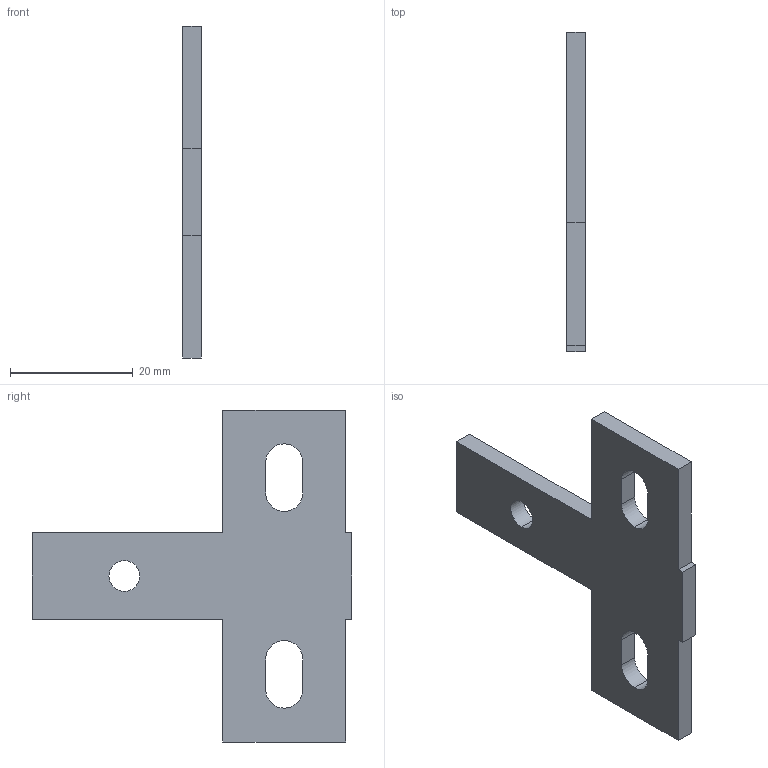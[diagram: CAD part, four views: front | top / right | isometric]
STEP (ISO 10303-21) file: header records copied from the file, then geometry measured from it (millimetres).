
FILE_DESCRIPTION (( 'STEP AP214' ), '1' );
FILE_NAME ('Eco Unterbauplatte Stollenband 3mm.STEP', '2010-11-16T08:44:35', ( 'grass' ), ( '' ), 'SwSTEP 2.0', 'SolidWorks 2010', '' );
FILE_SCHEMA (( 'AUTOMOTIVE_DESIGN' ));
Length unit declared in the file: millimetre
Products named in the file (1): Eco Unterbauplatte Stollenband 3mm
Bounding box: 3 x 52 x 54 mm (x, y, z)
Volume: 4175.4 mm3; surface area: 3639.9 mm2
Topology: 1 solids, 1 shells, 26 faces, 72 edges, 48 vertices
Faces by surface type: plane 18, cylinder 8
Entity records: 878 total; most frequent: CARTESIAN_POINT 147, ORIENTED_EDGE 144, DIRECTION 142, EDGE_CURVE 72, LINE 56, VECTOR 56, VERTEX_POINT 48, AXIS2_PLACEMENT_3D 43
